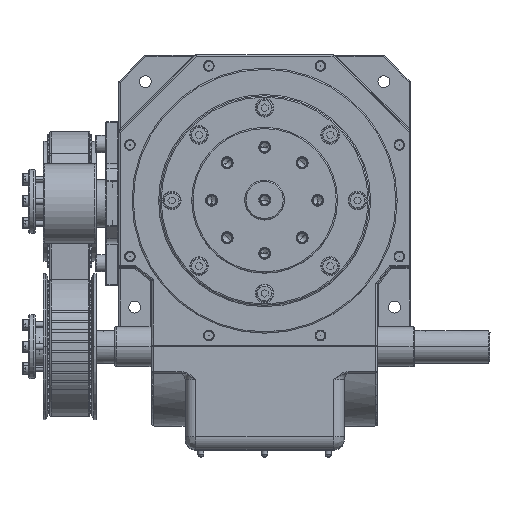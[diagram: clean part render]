
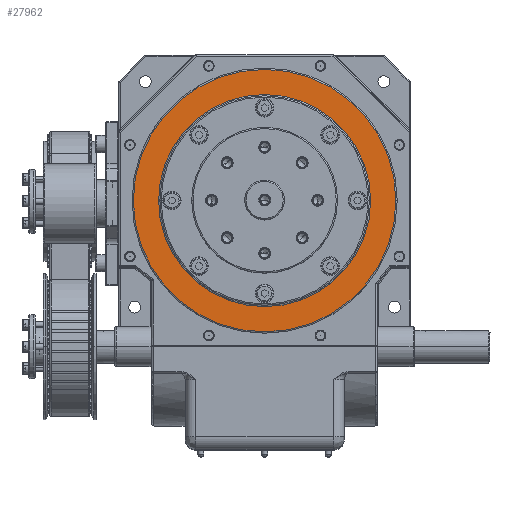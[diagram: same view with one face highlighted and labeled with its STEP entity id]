
A CAD part, top view. The second image highlights one B-rep face of the part: STEP entity #27962.
In plain terms, the highlighted planar face has unit normal (0, 0, 1).
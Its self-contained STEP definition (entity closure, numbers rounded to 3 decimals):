
#3027=CARTESIAN_POINT('',(0.,39.,16.));
#3028=DIRECTION('',(0.,0.,1.));
#3029=DIRECTION('',(1.,0.,0.));
#3030=AXIS2_PLACEMENT_3D('',#3027,#3028,#3029);
#3032=CARTESIAN_POINT('',(0.,39.,16.));
#3033=DIRECTION('',(0.,0.,1.));
#3034=DIRECTION('',(-1.,0.,0.));
#3035=AXIS2_PLACEMENT_3D('',#3032,#3033,#3034);
#3037=CARTESIAN_POINT('',(0.,39.,16.));
#3038=DIRECTION('',(0.,0.,1.));
#3039=DIRECTION('',(-1.,0.,0.));
#3040=AXIS2_PLACEMENT_3D('',#3037,#3038,#3039);
#3042=CARTESIAN_POINT('',(0.,39.,16.));
#3043=DIRECTION('',(0.,0.,1.));
#3044=DIRECTION('',(1.,0.,0.));
#3045=AXIS2_PLACEMENT_3D('',#3042,#3043,#3044);
#19182=CARTESIAN_POINT('',(80.,39.,16.));
#19183=CARTESIAN_POINT('',(-80.,39.,16.));
#19184=VERTEX_POINT('',#19182);
#19185=VERTEX_POINT('',#19183);
#19722=CARTESIAN_POINT('',(-99.,39.,16.));
#19723=CARTESIAN_POINT('',(99.,39.,16.));
#19724=VERTEX_POINT('',#19722);
#19725=VERTEX_POINT('',#19723);
#27946=CARTESIAN_POINT('',(0.,0.,16.));
#27947=DIRECTION('',(0.,0.,1.));
#27948=DIRECTION('',(1.,0.,0.));
#27949=AXIS2_PLACEMENT_3D('',#27946,#27947,#27948);
#27950=PLANE('',#27949);
#27952=ORIENTED_EDGE('',*,*,#27951,.F.);
#27953=ORIENTED_EDGE('',*,*,#27936,.F.);
#27954=EDGE_LOOP('',(#27952,#27953));
#27955=FACE_OUTER_BOUND('',#27954,.F.);
#27957=ORIENTED_EDGE('',*,*,#27956,.T.);
#27959=ORIENTED_EDGE('',*,*,#27958,.T.);
#27960=EDGE_LOOP('',(#27957,#27959));
#27961=FACE_BOUND('',#27960,.F.);
#3031=CIRCLE('',#3030,80.);
#3036=CIRCLE('',#3035,80.);
#3041=CIRCLE('',#3040,99.);
#3046=CIRCLE('',#3045,99.);
#27936=EDGE_CURVE('',#19725,#19724,#3046,.T.);
#27951=EDGE_CURVE('',#19724,#19725,#3041,.T.);
#27956=EDGE_CURVE('',#19184,#19185,#3031,.T.);
#27958=EDGE_CURVE('',#19185,#19184,#3036,.T.);
#27962=ADVANCED_FACE('',(#27955,#27961),#27950,.T.);
